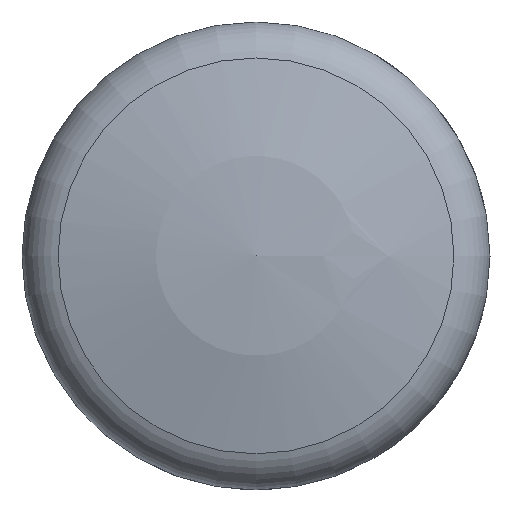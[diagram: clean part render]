
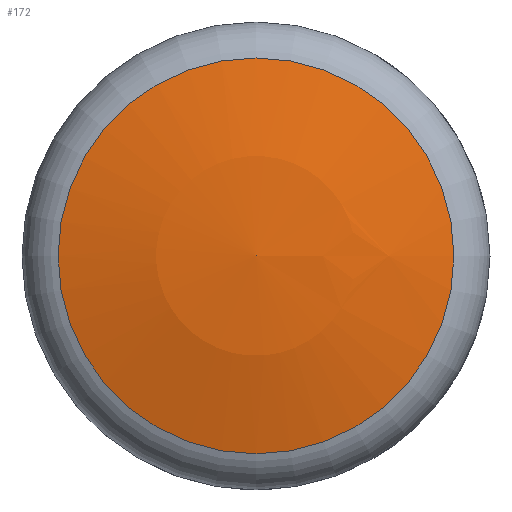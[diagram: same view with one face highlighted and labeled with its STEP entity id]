
A CAD part, top view. The second image highlights one B-rep face of the part: STEP entity #172.
In plain terms, the highlighted spherical face has radius 30 mm.
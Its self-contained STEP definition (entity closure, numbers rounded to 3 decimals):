
#133=CARTESIAN_POINT('',(8.036,0.,37.904));
#134=VERTEX_POINT('',#133);
#142=CARTESIAN_POINT('',(0.,0.,37.904));
#143=DIRECTION('',(1.,0.,0.));
#144=DIRECTION('',(0.,0.,1.));
#145=AXIS2_PLACEMENT_3D('',#142,#144,#143);
#146=CIRCLE('',#145,8.036);
#147=EDGE_CURVE('',#134,#134,#146,.T.);
#154=CARTESIAN_POINT('',(0.,0.,9.));
#155=DIRECTION('',(1.,0.,0.));
#156=DIRECTION('',(0.,0.,1.));
#157=AXIS2_PLACEMENT_3D('',#154,#156,#155);
#158=SPHERICAL_SURFACE('',#157,30.);
#159=CARTESIAN_POINT('',(0.,0.,39.));
#160=VERTEX_POINT('',#159);
#161=CARTESIAN_POINT('',(0.,0.,9.));
#162=DIRECTION('',(0.268,0.,0.963));
#163=DIRECTION('',(-0.,-1.,0.));
#164=AXIS2_PLACEMENT_3D('',#161,#163,#162);
#165=CIRCLE('',#164,30.);
#166=EDGE_CURVE('',#134,#160,#165,.T.);
#167=ORIENTED_EDGE('E5',*,*,#166,.T.);
#168=ORIENTED_EDGE('E10',*,*,#166,.F.);
#169=ORIENTED_EDGE('E10',*,*,#147,.F.);
#170=EDGE_LOOP('',(#167,#168,#169));
#171=FACE_OUTER_BOUND('',#170,.F.);
#172=ADVANCED_FACE('F5',(#171),#158,.T.);
